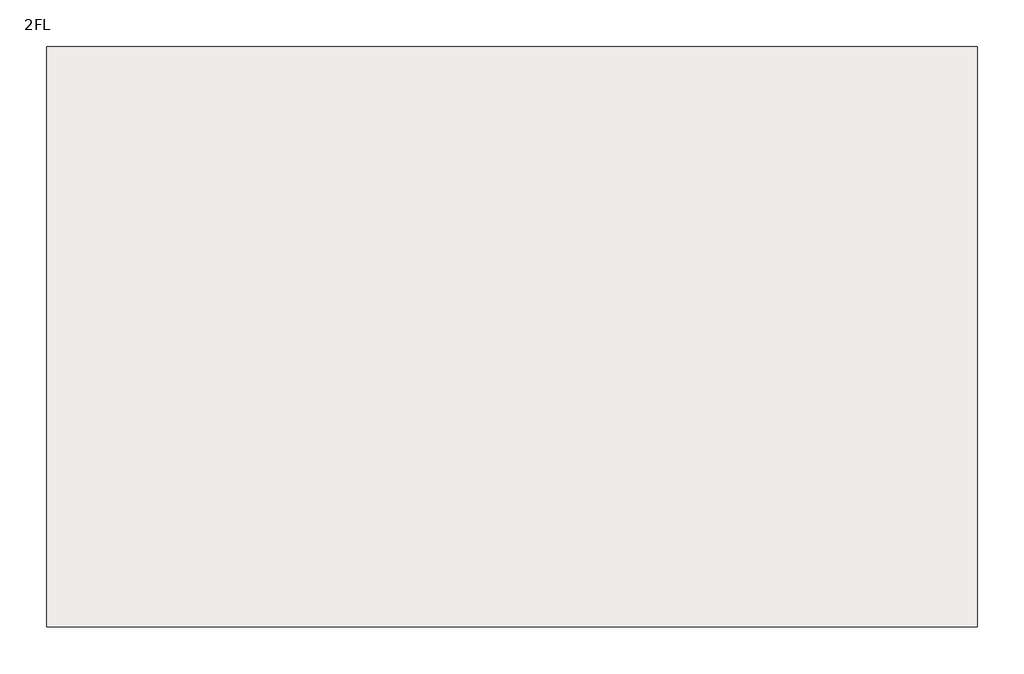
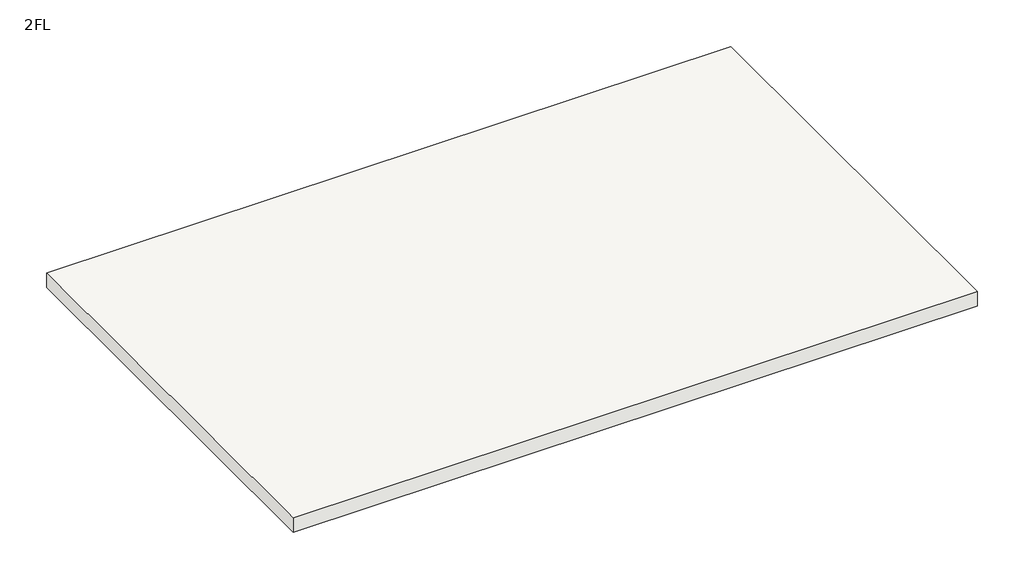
# One storey: 1 slab.
"""IFC4 building model written with IfcOpenShell, lengths in millimetres."""

from ifc_helpers import new_model, si_unit, frame, origin, place, context, project, spatial, polyline, outline, extrude, element, save

model = new_model("IFC4")

# Units and contexts
model_context = context("Model", 3, world=origin())
ifc_project = project(units=[si_unit("LENGTHUNIT", "METRE", prefix="MILLI")], contexts=[model_context])

# Site, building, storey
site = spatial("IfcSite", under=ifc_project)
building = spatial("IfcBuilding", under=site)
storey = spatial("IfcBuildingStorey", under=building, Name="2FL", Elevation=3500.0)

# Slab
placement = place(None, origin())
element("IfcSlab", 1, ObjectType="一般 - 15cm", at=placement, inside=storey, context=model_context, shape_type="SweptSolid", body=[
    extrude(outline(polyline([(-3726.4766752, 2575.3554896), (2923.5233248, 2575.3554896), (2923.5233248, -1574.6445104), (-3726.4766752, -1574.6445104), (-3726.4766752, 2575.3554896)])), frame((0.0, 0.0, 3325.0), z_axis=(0.0, 0.0, 1.0), x_axis=(1.0, 0.0, 0.0)), (0.0, 0.0, 1.0), 150.0),
])

save(model, "model.ifc")
